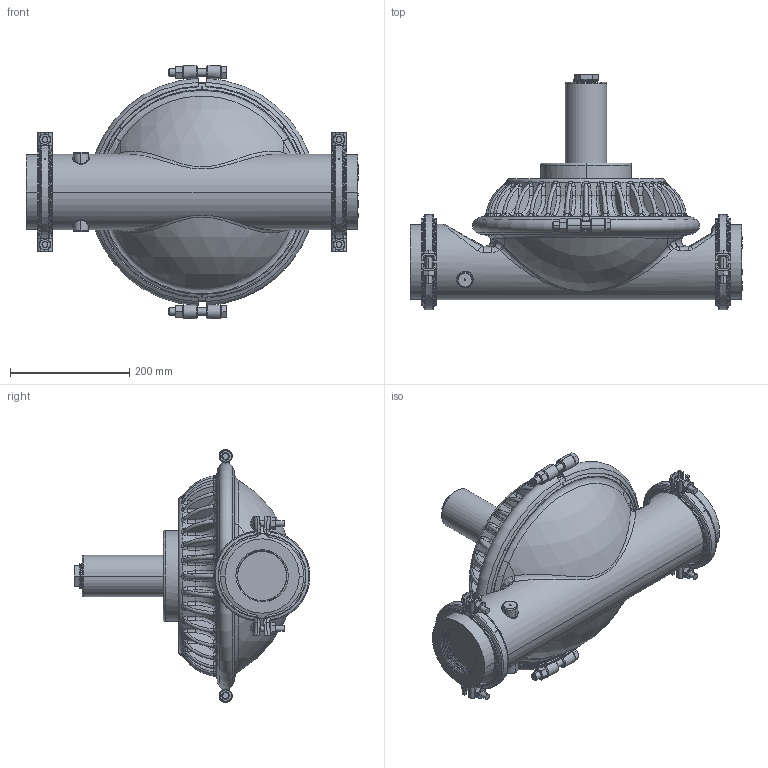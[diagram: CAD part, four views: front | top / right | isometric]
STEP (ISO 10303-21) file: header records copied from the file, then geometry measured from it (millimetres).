
FILE_DESCRIPTION (( 'STEP AP203' ), '1' );
FILE_NAME ('sd3_metal.STEP', '2022-07-01T17:51:38', ( '' ), ( '' ), 'SwSTEP 2.0', 'SolidWorks 2019', '' );
FILE_SCHEMA (( 'CONFIG_CONTROL_DESIGN' ));
Length unit declared in the file: inch
Products named in the file (1): sd3_metal
Bounding box: 557.02 x 395.21 x 425.09 mm (x, y, z)
Volume: 16834739.4 mm3; surface area: 786446.1 mm2
Topology: 1 solids, 1 shells, 2614 faces, 6606 edges, 4057 vertices
Faces by surface type: plane 1141, bspline 820, cone 253, cylinder 248, torus 140, sphere 12
Entity records: 173885 total; most frequent: CARTESIAN_POINT 117779, ORIENTED_EDGE 13200, DIRECTION 9415, EDGE_CURVE 6600, VERTEX_POINT 4057, VECTOR 3193, LINE 3193, AXIS2_PLACEMENT_3D 3111
